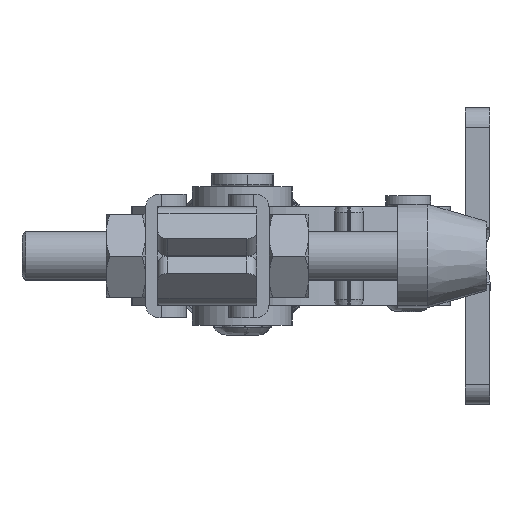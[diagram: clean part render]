
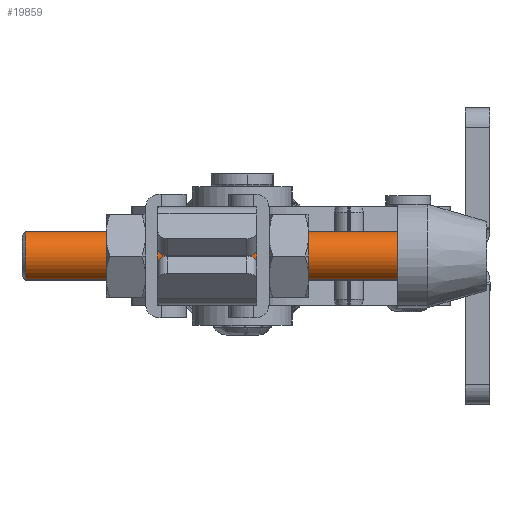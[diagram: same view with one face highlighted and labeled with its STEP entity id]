
A CAD part, left-side view. The second image highlights one B-rep face of the part: STEP entity #19859.
In plain terms, the highlighted cylindrical face has radius 5 mm (diameter 10 mm), a partial arc.
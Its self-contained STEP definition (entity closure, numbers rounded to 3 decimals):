
#1329 = AXIS2_PLACEMENT_3D ( 'NONE', #2385, #7716, #23633 ) ;
#1384 = EDGE_LOOP ( 'NONE', ( #14946, #33489, #4316, #22814 ) ) ;
#2385 = CARTESIAN_POINT ( 'NONE',  ( -94., 0., 0. ) ) ;
#3047 = CARTESIAN_POINT ( 'NONE',  ( -94., 0., 5. ) ) ;
#3202 = CIRCLE ( 'NONE', #15806, 5. ) ;
#3208 = DIRECTION ( 'NONE',  ( -1., 0., 0. ) ) ;
#4316 = ORIENTED_EDGE ( 'NONE', *, *, #33929, .T. ) ;
#4738 = VECTOR ( 'NONE', #31364, 1000. ) ;
#5292 = FACE_OUTER_BOUND ( 'NONE', #1384, .T. ) ;
#6113 = CARTESIAN_POINT ( 'NONE',  ( -18., 0., 0. ) ) ;
#7716 = DIRECTION ( 'NONE',  ( -1., 0., 0. ) ) ;
#8530 = DIRECTION ( 'NONE',  ( 0., 0., 1. ) ) ;
#8800 = VECTOR ( 'NONE', #14335, 1000. ) ;
#9722 = CARTESIAN_POINT ( 'NONE',  ( -93.25, 0., 5. ) ) ;
#10304 = CIRCLE ( 'NONE', #14658, 5. ) ;
#10449 = LINE ( 'NONE', #3047, #4738 ) ;
#12100 = VERTEX_POINT ( 'NONE', #9722 ) ;
#14335 = DIRECTION ( 'NONE',  ( -1., 0., 0. ) ) ;
#14658 = AXIS2_PLACEMENT_3D ( 'NONE', #6113, #3208, #8530 ) ;
#14946 = ORIENTED_EDGE ( 'NONE', *, *, #24909, .T. ) ;
#15756 = CARTESIAN_POINT ( 'NONE',  ( -18., 0., -5. ) ) ;
#15806 = AXIS2_PLACEMENT_3D ( 'NONE', #16414, #31869, #24139 ) ;
#16414 = CARTESIAN_POINT ( 'NONE',  ( -93.25, 0., 0. ) ) ;
#16682 = VERTEX_POINT ( 'NONE', #31791 ) ;
#18823 = VERTEX_POINT ( 'NONE', #15756 ) ;
#19859 = ADVANCED_FACE ( 'NONE', ( #5292 ), #20575, .T. ) ;
#20575 = CYLINDRICAL_SURFACE ( 'NONE', #1329, 5. ) ;
#22814 = ORIENTED_EDGE ( 'NONE', *, *, #25593, .F. ) ;
#23633 = DIRECTION ( 'NONE',  ( 0., 0., 1. ) ) ;
#24139 = DIRECTION ( 'NONE',  ( 0., 0., 1. ) ) ;
#24455 = CARTESIAN_POINT ( 'NONE',  ( -94., 0., -5. ) ) ;
#24630 = LINE ( 'NONE', #24455, #8800 ) ;
#24909 = EDGE_CURVE ( 'NONE', #26383, #18823, #10304, .T. ) ;
#25593 = EDGE_CURVE ( 'NONE', #26383, #12100, #10449, .T. ) ;
#26383 = VERTEX_POINT ( 'NONE', #32114 ) ;
#29139 = EDGE_CURVE ( 'NONE', #18823, #16682, #24630, .T. ) ;
#31364 = DIRECTION ( 'NONE',  ( -1., 0., 0. ) ) ;
#31791 = CARTESIAN_POINT ( 'NONE',  ( -93.25, 0., -5. ) ) ;
#31869 = DIRECTION ( 'NONE',  ( 1., 0., 0. ) ) ;
#32114 = CARTESIAN_POINT ( 'NONE',  ( -18., 0., 5. ) ) ;
#33489 = ORIENTED_EDGE ( 'NONE', *, *, #29139, .T. ) ;
#33929 = EDGE_CURVE ( 'NONE', #16682, #12100, #3202, .T. ) ;
